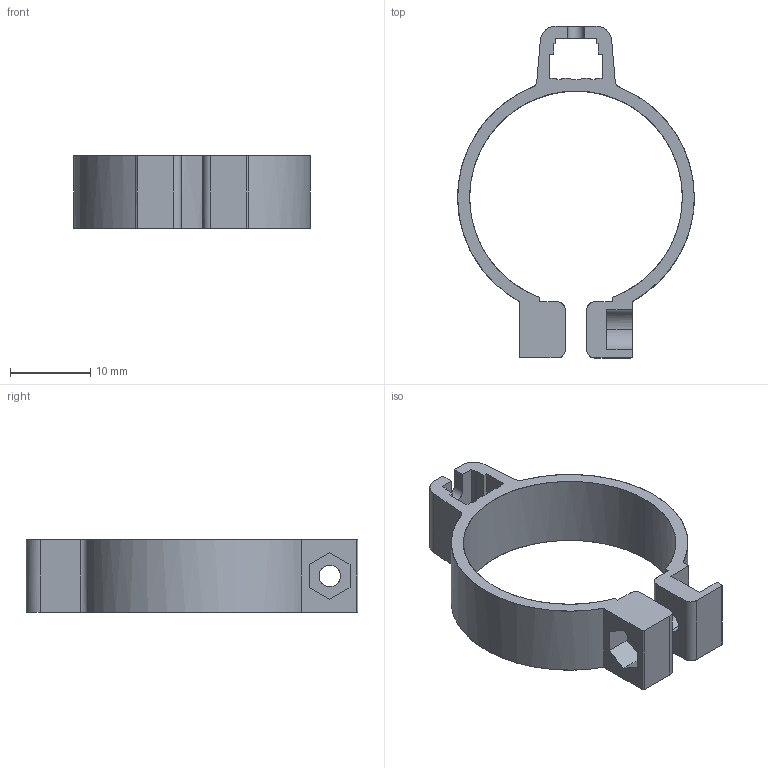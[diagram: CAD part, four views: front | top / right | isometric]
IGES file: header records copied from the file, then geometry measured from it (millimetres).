
Start section: Comment
Global section: file name: sw-25.igs; native system:  By UGS Corp.; preprocessor: XPlus GENERIC/IGES 3.0; author: Author; organization: Title; date: 20080926.103534; units: millimetre
Bounding box: 29.5 x 41.35 x 9 mm (x, y, z)
Surface area: 2649.9 mm2 (no closed solid volume)
Topology: 0 solids, 0 shells, 72 faces, 420 edges, 420 vertices
Faces by surface type: bspline 72
